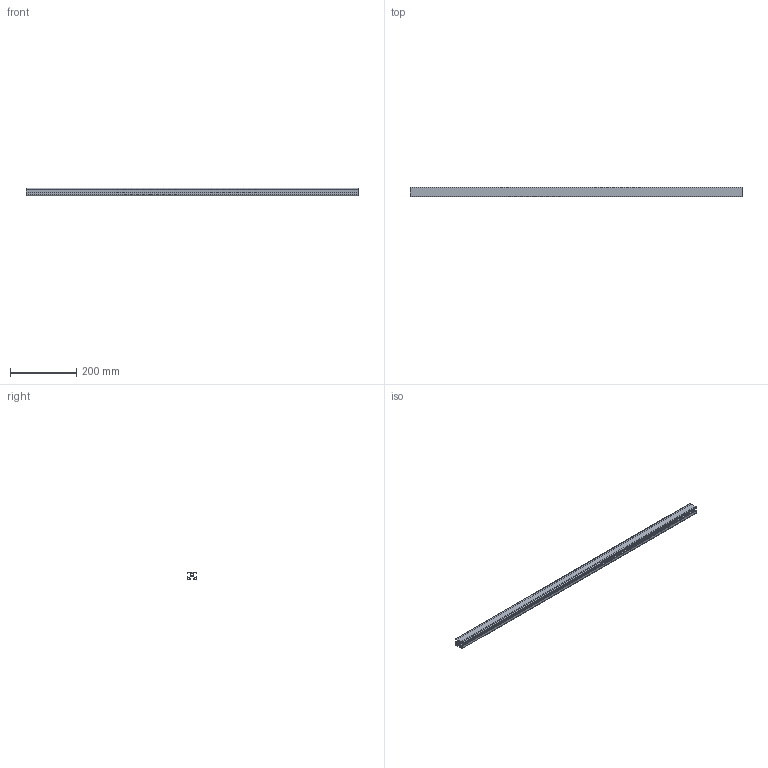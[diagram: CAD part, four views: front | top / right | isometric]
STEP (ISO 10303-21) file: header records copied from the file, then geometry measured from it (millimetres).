
FILE_DESCRIPTION (( 'STEP AP214' ), '1' );
FILE_NAME ('1.0177 23X30 musta 1000mm.STEP', '2026-03-13T06:24:47', ( '' ), ( '' ), 'SwSTEP 2.0', 'SolidWorks 2025', '' );
FILE_SCHEMA (( 'AUTOMOTIVE_DESIGN' ));
Length unit declared in the file: millimetre
Products named in the file (1): 1.0177 23X30 musta 1000mm
Bounding box: 1000 x 30 x 23 mm (x, y, z)
Volume: 228523.6 mm3; surface area: 252733.3 mm2
Topology: 1 solids, 1 shells, 99 faces, 291 edges, 194 vertices
Faces by surface type: plane 52, cylinder 47
Entity records: 3354 total; most frequent: DIRECTION 585, CARTESIAN_POINT 585, ORIENTED_EDGE 582, EDGE_CURVE 291, VECTOR 197, LINE 197, VERTEX_POINT 194, AXIS2_PLACEMENT_3D 194
